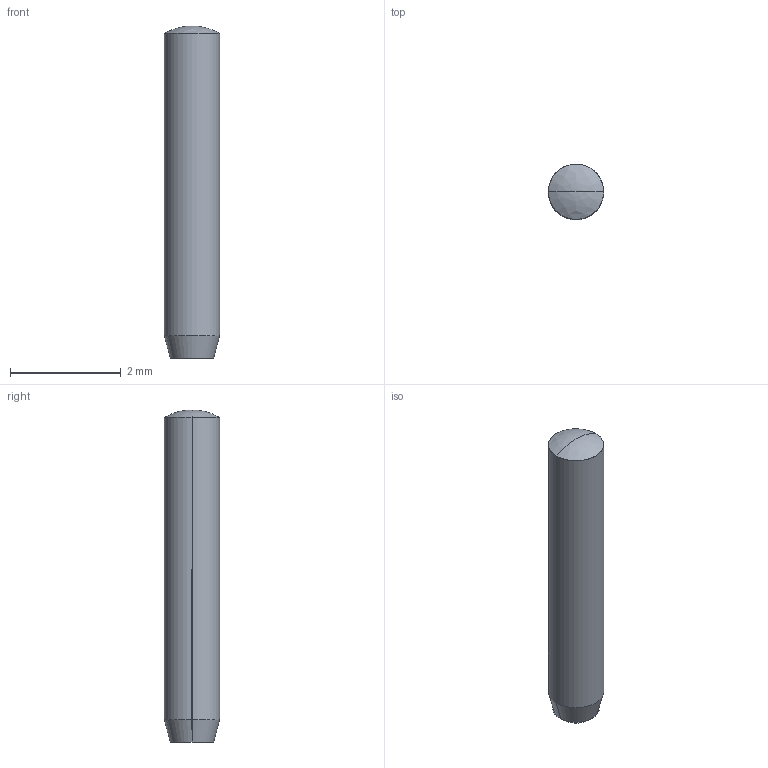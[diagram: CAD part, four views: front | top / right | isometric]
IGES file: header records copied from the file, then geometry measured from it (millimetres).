
Global section: file name: E:\UnigraphicsGraphicData\MISUMI_PRESS-PARTS\IGES\3d_ms1-6_00419_r00.igs; native system: NX V5.0; preprocessor: UGS NX IGES V5.0; author: MISUMI; date: 20110105.161512; units: millimetre
Bounding box: 1 x 1 x 6 mm (x, y, z)
Surface area: 19.7 mm2 (no closed solid volume)
Topology: 0 solids, 0 shells, 7 faces, 28 edges, 26 vertices
Faces by surface type: bspline 7
